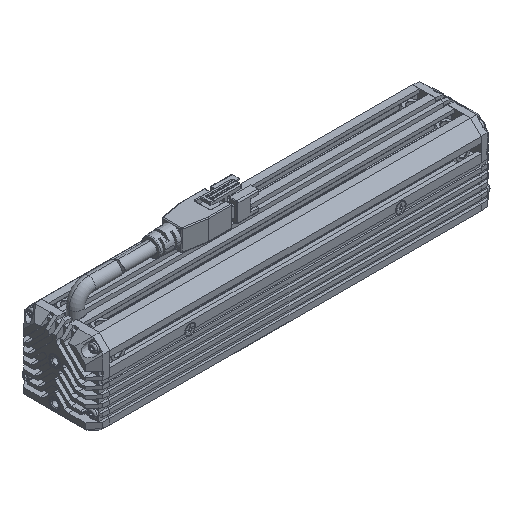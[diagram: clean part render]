
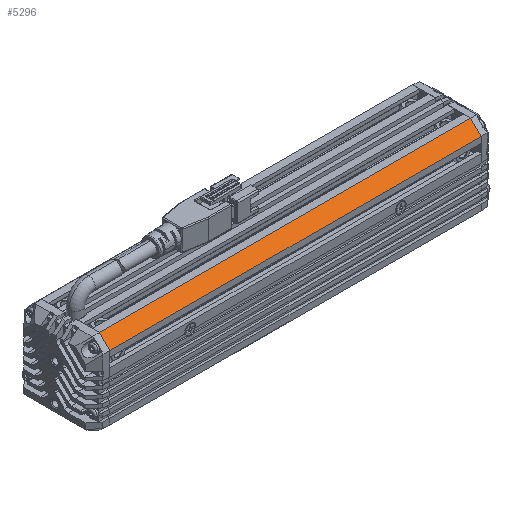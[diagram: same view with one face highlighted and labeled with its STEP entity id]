
A CAD part, isometric view. The second image highlights one B-rep face of the part: STEP entity #5296.
In plain terms, the highlighted planar face has unit normal (0, -0.707, 0.707).
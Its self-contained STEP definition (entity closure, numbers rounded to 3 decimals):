
#205=DIRECTION('',(0.,-0.707,-0.707));
#206=VECTOR('',#205,5.657);
#207=CARTESIAN_POINT('',(-70.5,-11.,15.));
#208=LINE('',#207,#206);
#639=DIRECTION('',(0.,-0.707,-0.707));
#640=VECTOR('',#639,5.657);
#641=CARTESIAN_POINT('',(70.5,-11.,15.));
#642=LINE('',#641,#640);
#1846=DIRECTION('',(1.,0.,0.));
#1847=VECTOR('',#1846,141.);
#1848=CARTESIAN_POINT('',(-70.5,-11.,15.));
#1849=LINE('',#1848,#1847);
#1850=DIRECTION('',(1.,0.,0.));
#1851=VECTOR('',#1850,141.);
#1852=CARTESIAN_POINT('',(-70.5,-15.,11.));
#1853=LINE('',#1852,#1851);
#2374=CARTESIAN_POINT('',(-70.5,-11.,15.));
#2375=VERTEX_POINT('',#2374);
#2376=CARTESIAN_POINT('',(-70.5,-15.,11.));
#2377=VERTEX_POINT('',#2376);
#2414=CARTESIAN_POINT('',(70.5,-11.,15.));
#2415=VERTEX_POINT('',#2414);
#2416=CARTESIAN_POINT('',(70.5,-15.,11.));
#2417=VERTEX_POINT('',#2416);
#5284=CARTESIAN_POINT('',(-70.5,-11.,15.));
#5285=DIRECTION('',(0.,-0.707,0.707));
#5286=DIRECTION('',(0.,-0.707,-0.707));
#5287=AXIS2_PLACEMENT_3D('',#5284,#5285,#5286);
#5288=PLANE('',#5287);
#5289=ORIENTED_EDGE('',*,*,#3105,.F.);
#5290=ORIENTED_EDGE('',*,*,#5279,.T.);
#5291=ORIENTED_EDGE('',*,*,#3451,.T.);
#5293=ORIENTED_EDGE('',*,*,#5292,.F.);
#5294=EDGE_LOOP('',(#5289,#5290,#5291,#5293));
#5295=FACE_OUTER_BOUND('',#5294,.F.);
#3105=EDGE_CURVE('',#2375,#2377,#208,.T.);
#3451=EDGE_CURVE('',#2415,#2417,#642,.T.);
#5279=EDGE_CURVE('',#2375,#2415,#1849,.T.);
#5292=EDGE_CURVE('',#2377,#2417,#1853,.T.);
#5296=ADVANCED_FACE('',(#5295),#5288,.T.);
